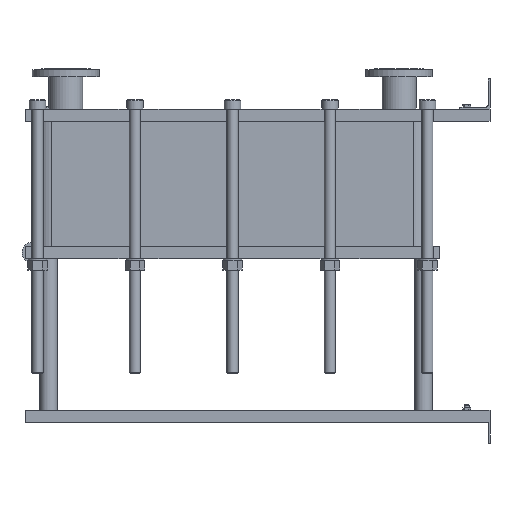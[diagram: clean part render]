
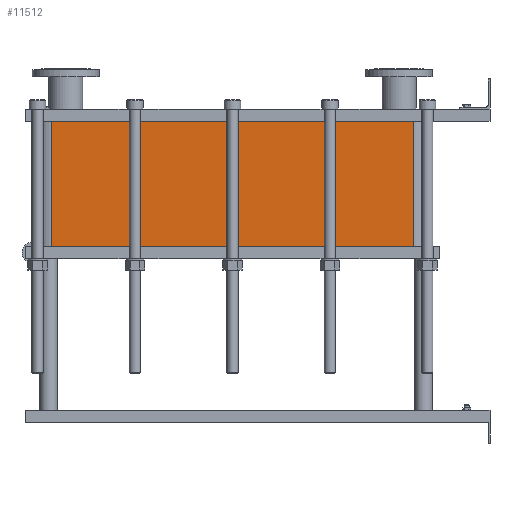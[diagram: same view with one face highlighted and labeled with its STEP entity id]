
A CAD part, left-side view. The second image highlights one B-rep face of the part: STEP entity #11512.
In plain terms, the highlighted planar face has unit normal (-1, 0, 0).
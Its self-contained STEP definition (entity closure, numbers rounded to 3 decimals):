
#1129=LINE('',#23232,#2102);
#1130=LINE('',#23236,#2103);
#1131=LINE('',#23238,#2104);
#1132=LINE('',#23239,#2105);
#2102=VECTOR('',#15887,10.);
#2103=VECTOR('',#15892,10.);
#2104=VECTOR('',#15893,10.);
#2105=VECTOR('',#15894,10.);
#3267=FACE_OUTER_BOUND('',#4093,.T.);
#4093=EDGE_LOOP('',(#10103,#10104,#10105,#10106));
#5642=VERTEX_POINT('',#23229);
#5643=VERTEX_POINT('',#23231);
#5644=VERTEX_POINT('',#23235);
#5645=VERTEX_POINT('',#23237);
#7159=EDGE_CURVE('',#5643,#5642,#1129,.T.);
#7161=EDGE_CURVE('',#5642,#5644,#1130,.T.);
#7162=EDGE_CURVE('',#5645,#5644,#1131,.T.);
#7163=EDGE_CURVE('',#5645,#5643,#1132,.T.);
#10103=ORIENTED_EDGE('',*,*,#7161,.T.);
#10104=ORIENTED_EDGE('',*,*,#7162,.F.);
#10105=ORIENTED_EDGE('',*,*,#7163,.T.);
#10106=ORIENTED_EDGE('',*,*,#7159,.T.);
#10857=PLANE('',#12751);
#11512=ADVANCED_FACE('',(#3267),#10857,.T.);
#12751=AXIS2_PLACEMENT_3D('',#23234,#15890,#15891);
#15887=DIRECTION('',(0.,0.,-1.));
#15890=DIRECTION('center_axis',(-1.,0.,0.));
#15891=DIRECTION('ref_axis',(0.,1.,0.));
#15892=DIRECTION('',(0.,-1.,0.));
#15893=DIRECTION('',(0.,0.,-1.));
#15894=DIRECTION('',(0.,1.,0.));
#23229=CARTESIAN_POINT('',(-200.,1414.,-403.65));
#23231=CARTESIAN_POINT('',(-200.,1414.,0.));
#23232=CARTESIAN_POINT('',(-200.,1414.,0.));
#23234=CARTESIAN_POINT('Origin',(-200.,248.,0.));
#23235=CARTESIAN_POINT('',(-200.,248.,-403.65));
#23236=CARTESIAN_POINT('',(-200.,539.5,-403.65));
#23237=CARTESIAN_POINT('',(-200.,248.,0.));
#23238=CARTESIAN_POINT('',(-200.,248.,0.));
#23239=CARTESIAN_POINT('',(-200.,248.,0.));
